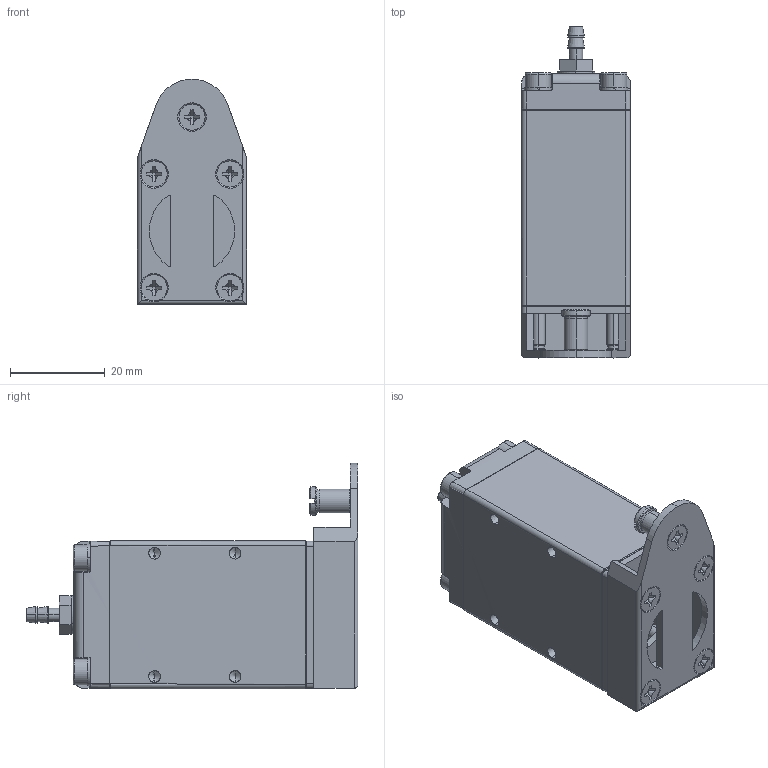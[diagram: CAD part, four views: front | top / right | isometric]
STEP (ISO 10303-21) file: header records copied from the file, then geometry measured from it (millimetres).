
FILE_DESCRIPTION (( 'STEP AP214' ), '1' );
FILE_NAME ('GT-NF05.STEP', '2019-11-27T02:14:22', ( '微软用户' ), ( '微软中国' ), 'SwSTEP 2.0', 'SolidWorks 2016', '' );
FILE_SCHEMA (( 'AUTOMOTIVE_DESIGN' ));
Length unit declared in the file: millimetre
Products named in the file (1): GT-NF05
Bounding box: 23 x 70 x 47.6 mm (x, y, z)
Surface area: 14091.2 mm2 (no closed solid volume)
Topology: 0 solids, 59 shells, 625 faces, 1684 edges, 1133 vertices
Faces by surface type: plane 283, cylinder 196, bspline 72, cone 54, torus 20
Entity records: 29541 total; most frequent: CARTESIAN_POINT 11276, ORIENTED_EDGE 3078, DIRECTION 2805, EDGE_CURVE 1652, VERTEX_POINT 1133, AXIS2_PLACEMENT_3D 1047, LINE 711, VECTOR 711
